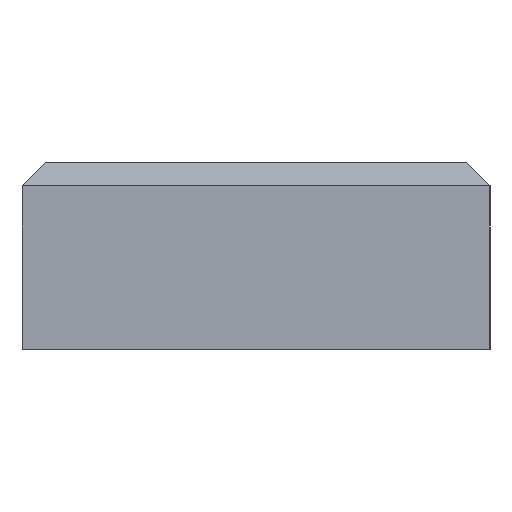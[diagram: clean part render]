
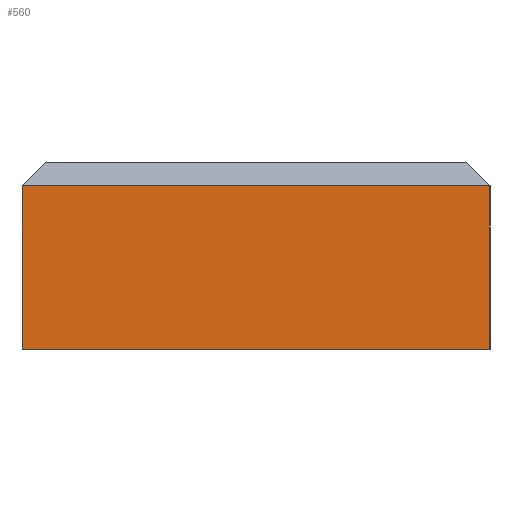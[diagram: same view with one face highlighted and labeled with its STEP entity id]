
A CAD part, left-side view. The second image highlights one B-rep face of the part: STEP entity #560.
In plain terms, the highlighted planar face has unit normal (-1, 0, 0).
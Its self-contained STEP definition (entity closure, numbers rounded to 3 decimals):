
#547=AXIS2_PLACEMENT_3D('Plane Axis2P3D',#544,#545,#546) ;
#40=CARTESIAN_POINT('Vertex',(15.,10.,11.5)) ;
#82=CARTESIAN_POINT('Line Origine',(15.,0.,11.5)) ;
#86=CARTESIAN_POINT('Vertex',(15.,-10.,11.5)) ;
#505=CARTESIAN_POINT('Vertex',(15.,10.,4.5)) ;
#508=CARTESIAN_POINT('Line Origine',(15.,10.,8.)) ;
#529=CARTESIAN_POINT('Vertex',(15.,-10.,4.5)) ;
#532=CARTESIAN_POINT('Line Origine',(15.,-10.,8.)) ;
#544=CARTESIAN_POINT('Axis2P3D Location',(15.,10.,5.)) ;
#549=CARTESIAN_POINT('Line Origine',(15.,0.,4.5)) ;
#83=DIRECTION('Vector Direction',(0.,1.,0.)) ;
#509=DIRECTION('Vector Direction',(0.,0.,-1.)) ;
#533=DIRECTION('Vector Direction',(0.,0.,-1.)) ;
#545=DIRECTION('Axis2P3D Direction',(-1.,0.,0.)) ;
#546=DIRECTION('Axis2P3D XDirection',(0.,-1.,0.)) ;
#550=DIRECTION('Vector Direction',(0.,-1.,0.)) ;
#84=VECTOR('Line Direction',#83,1.) ;
#510=VECTOR('Line Direction',#509,1.) ;
#534=VECTOR('Line Direction',#533,1.) ;
#551=VECTOR('Line Direction',#550,1.) ;
#555=ORIENTED_EDGE('',*,*,#536,.F.) ;
#556=ORIENTED_EDGE('',*,*,#88,.F.) ;
#557=ORIENTED_EDGE('',*,*,#512,.T.) ;
#558=ORIENTED_EDGE('',*,*,#553,.T.) ;
#560=ADVANCED_FACE('\X2\96F64EF651E04F554F53\X0\',(#559),#548,.T.) ;
#88=EDGE_CURVE('',#41,#87,#85,.F.) ;
#512=EDGE_CURVE('',#41,#506,#511,.T.) ;
#536=EDGE_CURVE('',#87,#530,#535,.T.) ;
#553=EDGE_CURVE('',#506,#530,#552,.T.) ;
#554=EDGE_LOOP('',(#555,#556,#557,#558)) ;
#559=FACE_OUTER_BOUND('',#554,.T.) ;
#85=LINE('Line',#82,#84) ;
#511=LINE('Line',#508,#510) ;
#535=LINE('Line',#532,#534) ;
#552=LINE('Line',#549,#551) ;
#548=PLANE('Plane',#547) ;
#41=VERTEX_POINT('',#40) ;
#87=VERTEX_POINT('',#86) ;
#506=VERTEX_POINT('',#505) ;
#530=VERTEX_POINT('',#529) ;
